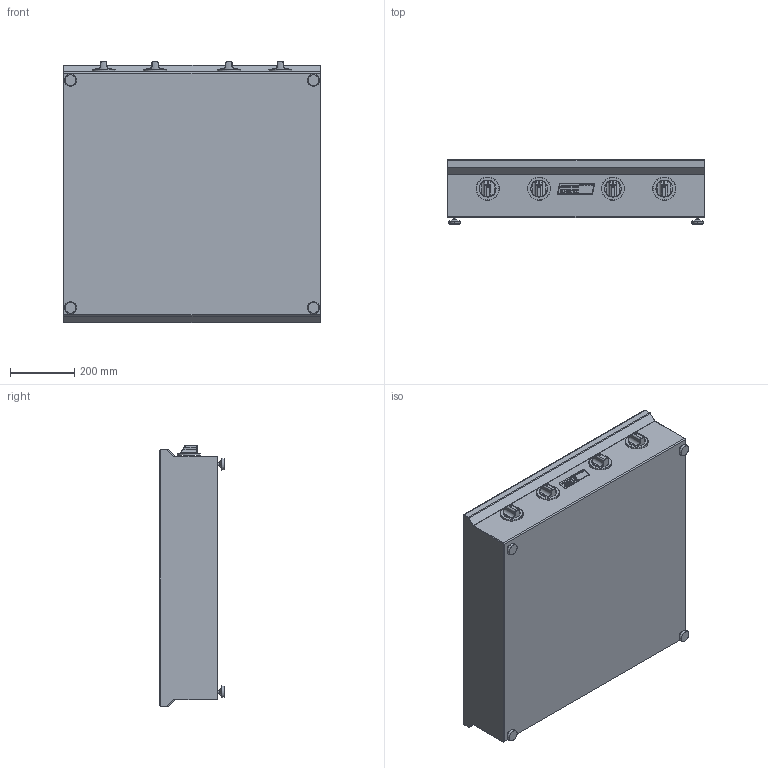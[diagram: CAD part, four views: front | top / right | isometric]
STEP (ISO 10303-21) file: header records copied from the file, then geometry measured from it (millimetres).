
FILE_DESCRIPTION (( 'STEP AP214' ), '1' );
FILE_NAME ('MS-I-40M.STEP', '2015-08-05T09:20:54', ( 'T. Weiss' ), ( 'Menusystem AG' ), 'SwSTEP 2.0', 'SolidWorks 2012', '' );
FILE_SCHEMA (( 'AUTOMOTIVE_DESIGN' ));
Length unit declared in the file: millimetre
Products named in the file (1): MS-I-40M
Bounding box: 800 x 199.65 x 812.43 mm (x, y, z)
Volume: 110236218.2 mm3; surface area: 1913034.5 mm2
Topology: 9 solids, 9 shells, 1188 faces, 2985 edges, 1916 vertices
Faces by surface type: plane 634, cylinder 354, bspline 158, cone 42
Entity records: 45193 total; most frequent: CARTESIAN_POINT 17156, ORIENTED_EDGE 5954, DIRECTION 5513, EDGE_CURVE 2977, VERTEX_POINT 1916, LINE 1871, VECTOR 1871, AXIS2_PLACEMENT_3D 1821
